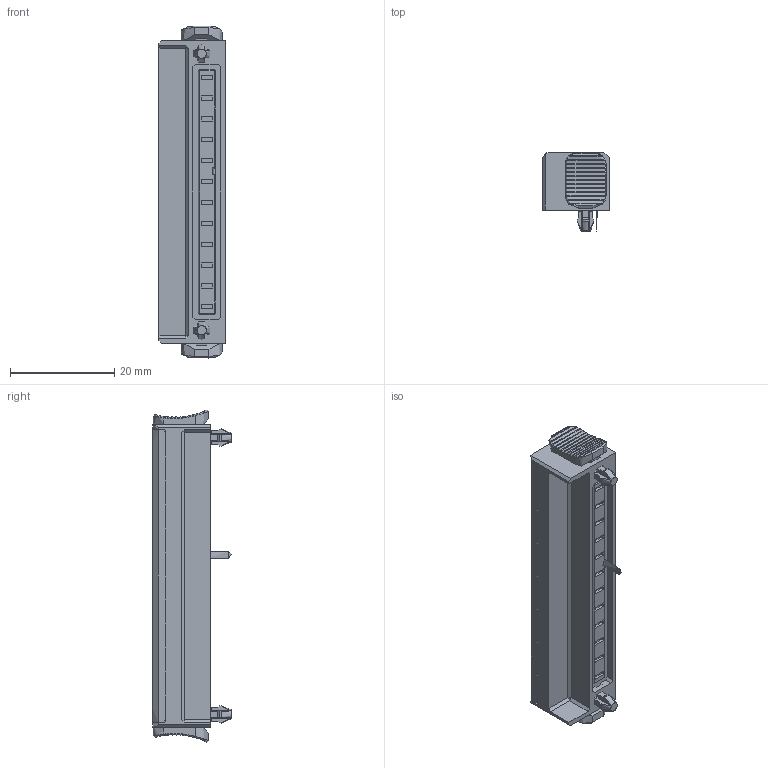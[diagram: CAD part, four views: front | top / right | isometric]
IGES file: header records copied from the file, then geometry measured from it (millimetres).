
Global section: file name: 21.12.212.113.1; native system: unknown; preprocessor: unknown; author: unknown; organization: unknown; date: 20221117.084426; units: millimetre
Bounding box: 12.7 x 15.02 x 63.62 mm (x, y, z)
Volume: 6151.5 mm3; surface area: 4554.1 mm2
Topology: 1 solids, 1 shells, 1451 faces, 4153 edges, 2698 vertices
Faces by surface type: bspline 1451
